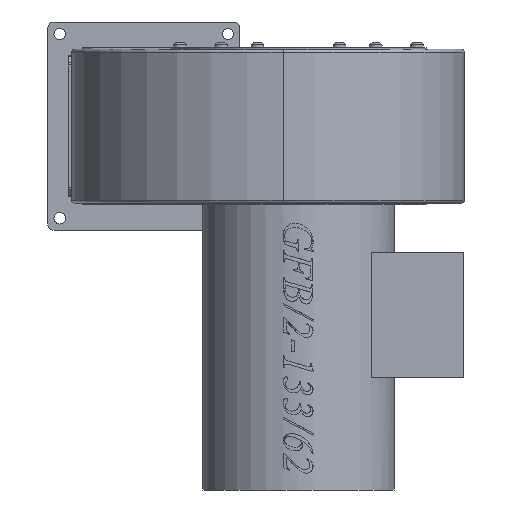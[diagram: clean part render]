
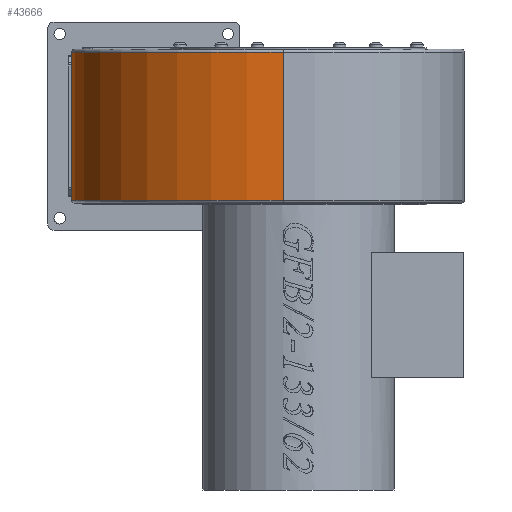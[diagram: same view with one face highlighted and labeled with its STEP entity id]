
A CAD part, left-side view. The second image highlights one B-rep face of the part: STEP entity #43666.
In plain terms, the highlighted cylindrical face has radius 132 mm (diameter 264 mm), a partial arc.
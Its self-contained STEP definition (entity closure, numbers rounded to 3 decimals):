
#1688=CIRCLE('',#46350,132.);
#1702=CIRCLE('',#46370,132.);
#5461=FACE_OUTER_BOUND('',#8058,.T.);
#8058=EDGE_LOOP('',(#39210,#39211,#39212,#39213));
#13064=LINE('',#79670,#17236);
#13069=LINE('',#79711,#17241);
#17236=VECTOR('',#55803,10.);
#17241=VECTOR('',#55856,10.);
#21278=VERTEX_POINT('',#79667);
#21279=VERTEX_POINT('',#79669);
#21282=VERTEX_POINT('',#79678);
#21291=VERTEX_POINT('',#79710);
#27305=EDGE_CURVE('',#21278,#21279,#13064,.T.);
#27310=EDGE_CURVE('',#21282,#21278,#1688,.T.);
#27326=EDGE_CURVE('',#21282,#21291,#13069,.T.);
#27327=EDGE_CURVE('',#21279,#21291,#1702,.T.);
#39210=ORIENTED_EDGE('',*,*,#27310,.F.);
#39211=ORIENTED_EDGE('',*,*,#27326,.T.);
#39212=ORIENTED_EDGE('',*,*,#27327,.F.);
#39213=ORIENTED_EDGE('',*,*,#27305,.F.);
#39971=CYLINDRICAL_SURFACE('',#46369,132.);
#43666=ADVANCED_FACE('',(#5461),#39971,.T.);
#46350=AXIS2_PLACEMENT_3D('',#79680,#55814,#55815);
#46369=AXIS2_PLACEMENT_3D('',#79709,#55854,#55855);
#46370=AXIS2_PLACEMENT_3D('',#79712,#55857,#55858);
#55803=DIRECTION('',(0.,0.,1.));
#55814=DIRECTION('center_axis',(0.,0.,
-1.));
#55815=DIRECTION('ref_axis',(-0.707,0.707,0.));
#55854=DIRECTION('center_axis',(0.,0.,
1.));
#55855=DIRECTION('ref_axis',(0.,1.,0.));
#55856=DIRECTION('',(0.,0.,1.));
#55857=DIRECTION('center_axis',(0.,0.,
1.));
#55858=DIRECTION('ref_axis',(-0.707,0.707,0.));
#79667=CARTESIAN_POINT('',(9.5,141.5,-91.7));
#79669=CARTESIAN_POINT('',(9.5,141.5,0.7));
#79670=CARTESIAN_POINT('',(9.5,141.5,-93.5));
#79678=CARTESIAN_POINT('',(-122.5,9.5,-91.7));
#79680=CARTESIAN_POINT('Origin',(9.5,9.5,-91.7));
#79709=CARTESIAN_POINT('Origin',(9.5,9.5,-93.5));
#79710=CARTESIAN_POINT('',(-122.5,9.5,0.7));
#79711=CARTESIAN_POINT('',(-122.5,9.5,-93.5));
#79712=CARTESIAN_POINT('Origin',(9.5,9.5,0.7));
